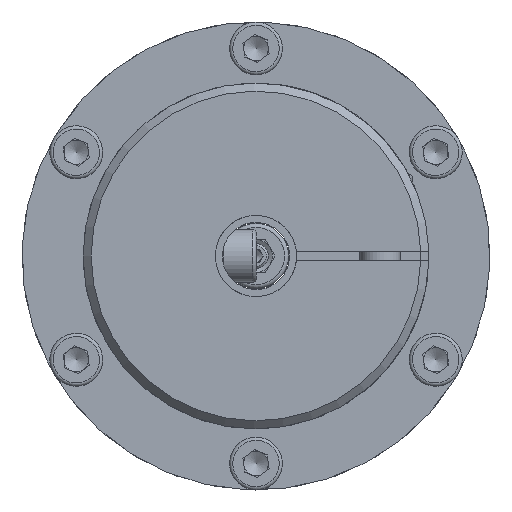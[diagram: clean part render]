
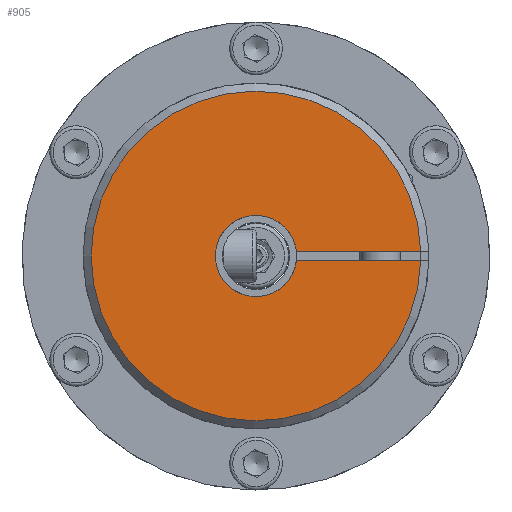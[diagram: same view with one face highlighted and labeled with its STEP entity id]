
A CAD part, left-side view. The second image highlights one B-rep face of the part: STEP entity #905.
In plain terms, the highlighted planar face has unit normal (-1, 0, 0).
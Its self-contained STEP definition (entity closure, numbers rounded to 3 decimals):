
#905 = ADVANCED_FACE( '', ( #1820 ), #1821, .F. );
#1820 = FACE_OUTER_BOUND( '', #3067, .T. );
#1821 = PLANE( '', #3068 );
#3067 = EDGE_LOOP( '', ( #5928, #5929, #5930, #5931 ) );
#3068 = AXIS2_PLACEMENT_3D( '', #5932, #5933, #5934 );
#5928 = ORIENTED_EDGE( '', *, *, #8201, .T. );
#5929 = ORIENTED_EDGE( '', *, *, #8193, .T. );
#5930 = ORIENTED_EDGE( '', *, *, #7918, .F. );
#5931 = ORIENTED_EDGE( '', *, *, #7887, .T. );
#5932 = CARTESIAN_POINT( '', ( -43., 0., 40.5 ) );
#5933 = DIRECTION( '', ( 1., 0., 0. ) );
#5934 = DIRECTION( '', ( 0., 0., -1. ) );
#7887 = EDGE_CURVE( '', #9460, #9458, #9461, .T. );
#7918 = EDGE_CURVE( '', #9460, #9520, #9521, .T. );
#8193 = EDGE_CURVE( '', #9974, #9520, #9975, .T. );
#8201 = EDGE_CURVE( '', #9458, #9974, #9988, .T. );
#9458 = VERTEX_POINT( '', #13754 );
#9460 = VERTEX_POINT( '', #13759 );
#9461 = LINE( '', #13760, #13761 );
#9520 = VERTEX_POINT( '', #13823 );
#9521 = CIRCLE( '', #13824, 10. );
#9974 = VERTEX_POINT( '', #14899 );
#9975 = LINE( '', #14900, #14901 );
#9988 = CIRCLE( '', #14930, 40.5 );
#13754 = CARTESIAN_POINT( '', ( -43., -37.023, 16.418 ) );
#13759 = CARTESIAN_POINT( '', ( -43., -8.81, 4.732 ) );
#13760 = CARTESIAN_POINT( '', ( -43., -13.936, 6.855 ) );
#13761 = VECTOR( '', #16605, 1000. );
#13823 = CARTESIAN_POINT( '', ( -43., -9.575, 2.884 ) );
#13824 = AXIS2_PLACEMENT_3D( '', #16690, #16691, #16692 );
#14899 = CARTESIAN_POINT( '', ( -43., -37.788, 14.57 ) );
#14900 = CARTESIAN_POINT( '', ( -43., -14.702, 5.007 ) );
#14901 = VECTOR( '', #17132, 1000. );
#14930 = AXIS2_PLACEMENT_3D( '', #17143, #17144, #17145 );
#16605 = DIRECTION( '', ( 0., -0.924, 0.383 ) );
#16690 = CARTESIAN_POINT( '', ( -43., 0., 0. ) );
#16691 = DIRECTION( '', ( -1., 0., 0. ) );
#16692 = DIRECTION( '', ( 0., 0., 1. ) );
#17132 = DIRECTION( '', ( 0., 0.924, -0.383 ) );
#17143 = CARTESIAN_POINT( '', ( -43., 0., 0. ) );
#17144 = DIRECTION( '', ( -1., 0., 0. ) );
#17145 = DIRECTION( '', ( 0., 0., 1. ) );
